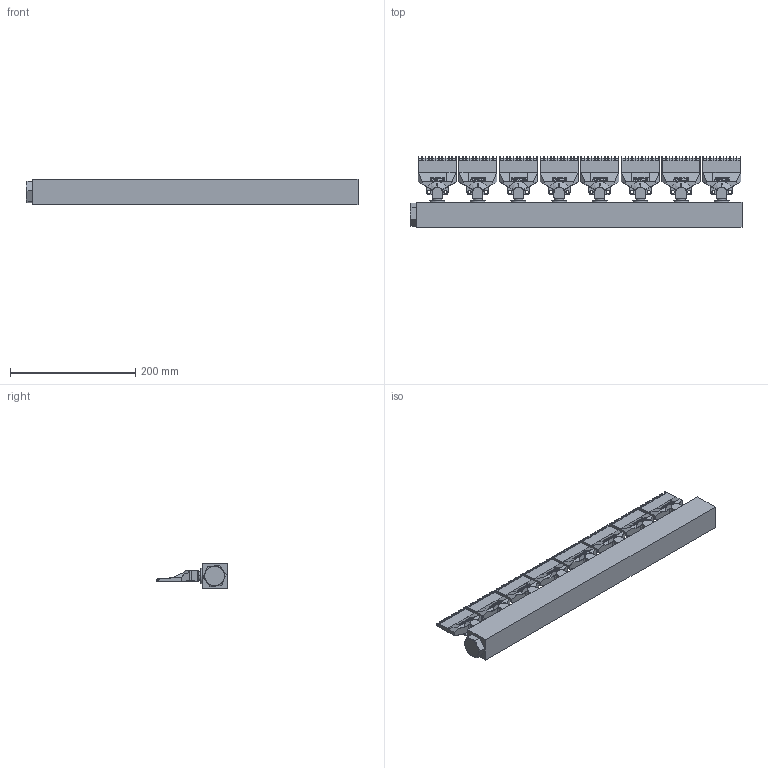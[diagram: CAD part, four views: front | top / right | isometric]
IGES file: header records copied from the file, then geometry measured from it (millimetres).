
Start section: SolidWorks IGES file using analytic representation for surfaces
Global section: file name: G:\Silvent\Ritningar\Övrigt\IGES\Silvent 378.IGS; native system: SolidWorks 2006 by SolidWorks Corporation; preprocessor: SolidWorks 2006 by SolidWorks Corporation; author: SilvRaTi; date: 061220.090532; units: millimetre
Bounding box: 531 x 112.5 x 40 mm (x, y, z)
Surface area: 244011.8 mm2 (no closed solid volume)
Topology: 0 solids, 0 shells, 2572 faces, 23006 edges, 22990 vertices
Faces by surface type: bspline 1454, revolution 1118
